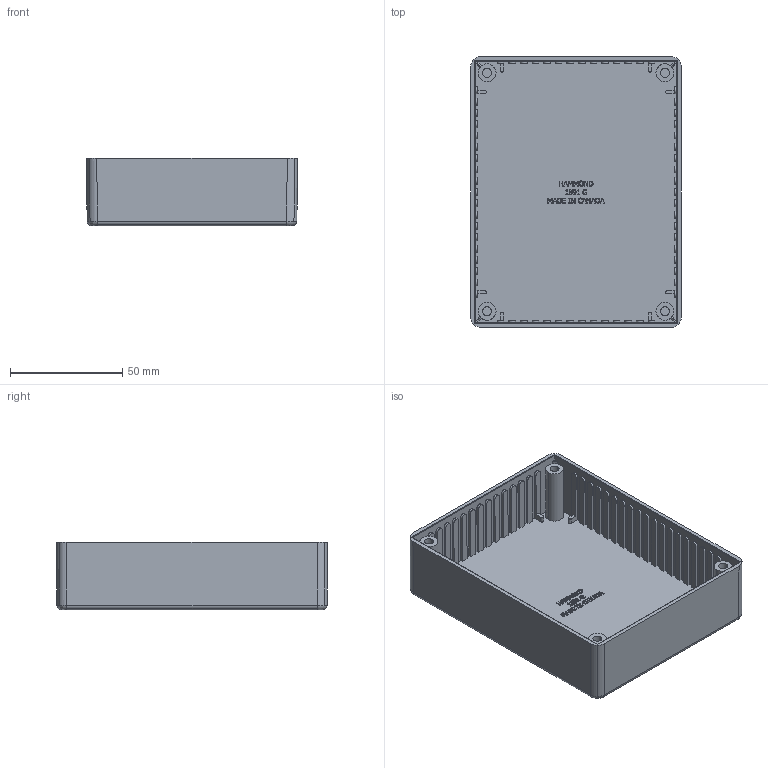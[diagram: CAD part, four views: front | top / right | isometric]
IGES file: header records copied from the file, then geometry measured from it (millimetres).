
Global section: file name: No Iges File Name specified; native system: AutoDesk Inventor R10; preprocessor: AutoDesk Inventor Iges Exporter R10; author: No Author specified; organization: No Organization specified; date: 20060220.101107; units: millimetre
Bounding box: 93.6 x 120.5 x 30 mm (x, y, z)
Volume: 54473.6 mm3; surface area: 53355.9 mm2
Topology: 1 solids, 1 shells, 733 faces, 2060 edges, 1368 vertices
Faces by surface type: plane 382, bspline 274, cylinder 73, revolution 4
